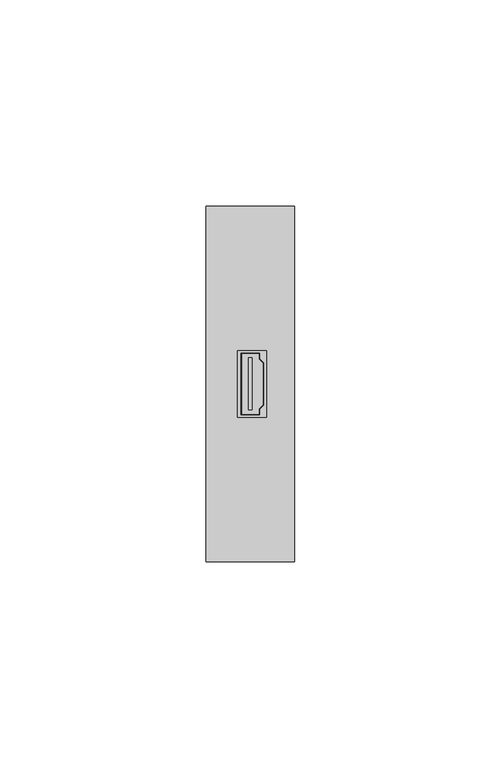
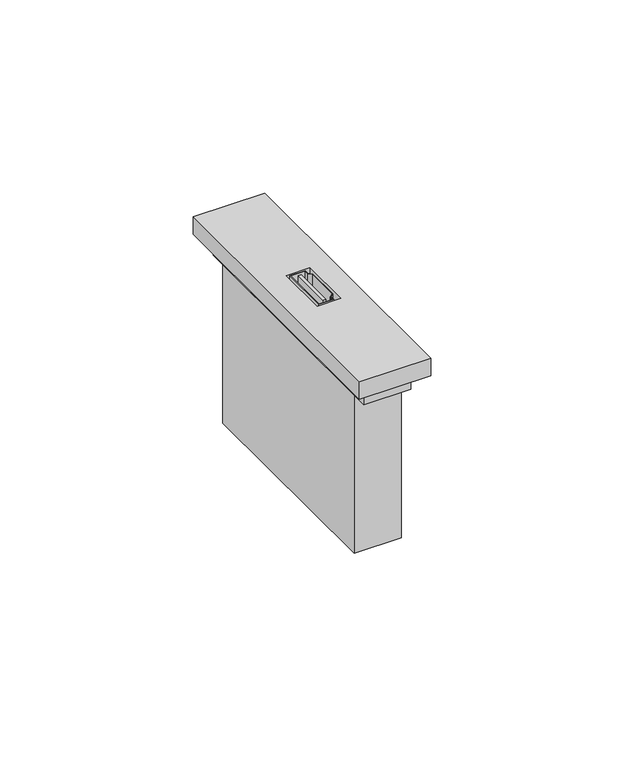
"""IFC4 building model written with IfcOpenShell, lengths in millimetres: proxy geometry, BT_LN-ConnettoriAudioVideo_K4284P : Connettore HDMI - Art. K4284P - 1M - Cover Bianco."""

from ifc_helpers import new_model, si_unit, frame, origin, origin_with_axes, place, context, project, spatial, polyline, outline, extrude, source, transform, mapped, element, save


def electrical_fixtures_a66001f9(model_context):
    return source(origin(), model_context, "Body", "SweptSolid", [
        extrude(outline(polyline([(-7.0, 39.0), (7.0, 39.0), (7.0, -39.0), (-7.0, -39.0), (-7.0, 39.0)])), frame((0.0, 0.0, 50.0), z_axis=(0.0, 0.0, 1.0), x_axis=(1.0, 0.0, 0.0)), (0.0, 0.0, 1.0), 5.5),
        extrude(outline(polyline([(-7.0, 34.0), (7.0, 34.0), (7.0, -34.0), (-7.0, -34.0), (-7.0, 34.0)])), origin_with_axes(), (0.0, 0.0, 1.0), 50.0),
        extrude(outline(polyline([(-2.25, -7.5), (-2.25, 7.5), (2.25, 7.5), (2.25, 6.1), (3.2399495, 5.1100505), (3.2399495, -5.1100505), (2.25, -6.1), (2.25, -7.5), (-2.25, -7.5)]), holes=[polyline([(-2.05, 7.3), (-2.05, -7.3), (2.05, -7.3), (2.05, -6.0171573), (3.0399495, -5.0272078), (3.0399495, 5.0272078), (2.05, 6.0171573), (2.05, 7.3), (-2.05, 7.3)])]), frame((0.0, 0.0, 55.5), z_axis=(0.0, 0.0, 1.0), x_axis=(1.0, 0.0, 0.0)), (0.0, 0.0, 1.0), 5.5),
        extrude(outline(polyline([(0.413543, 6.3), (0.413543, -6.3), (-0.413543, -6.3), (-0.413543, 6.3), (0.413543, 6.3)])), frame((0.0, 0.0, 55.5), z_axis=(0.0, 0.0, 1.0), x_axis=(1.0, 0.0, 0.0)), (0.0, 0.0, 1.0), 5.5),
        extrude(outline(polyline([(-10.7, -43.0), (-10.7, 43.0), (10.7, 43.0), (10.7, -43.0), (-10.7, -43.0)]), holes=[polyline([(3.9417801, 8.0), (-3.0582199, 8.0), (-3.0582199, -8.0), (3.9417801, -8.0), (3.9417801, 8.0)])]), frame((0.0, 0.0, 55.5), z_axis=(0.0, 0.0, 1.0), x_axis=(1.0, 0.0, 0.0)), (0.0, 0.0, 1.0), 5.5),
    ])


if __name__ == "__main__":
    model = new_model("IFC4")
    model_context = context("Model", 3, world=origin())
    ifc_project = project(units=[si_unit("LENGTHUNIT", "METRE", prefix="MILLI")], contexts=[model_context])
    site = spatial("IfcSite", under=ifc_project)
    building = spatial("IfcBuilding", under=site)
    placement = place(None, origin())
    electrical_fixtures_shape = electrical_fixtures_a66001f9(model_context)
    element("IfcBuildingElementProxy", 1, Name="BT_LN-ConnettoriAudioVideo_K4284P : Connettore HDMI - Art. K4284P - 1M - Cover Bianco", ObjectType="BT_LN-ConnettoriAudioVideo_K4284P : Connettore HDMI - Art. K4284P - 1M - Cover Bianco", at=placement, inside=building, context=model_context, shape_type="MappedRepresentation", body=[
        mapped(electrical_fixtures_shape, transform((0.0, 0.0, 0.0), x_axis=(1.0, 0.0, 0.0), y_axis=(0.0, 1.0, 0.0), z_axis=(0.0, 0.0, 1.0))),
    ])
    save(model, "model.ifc")
